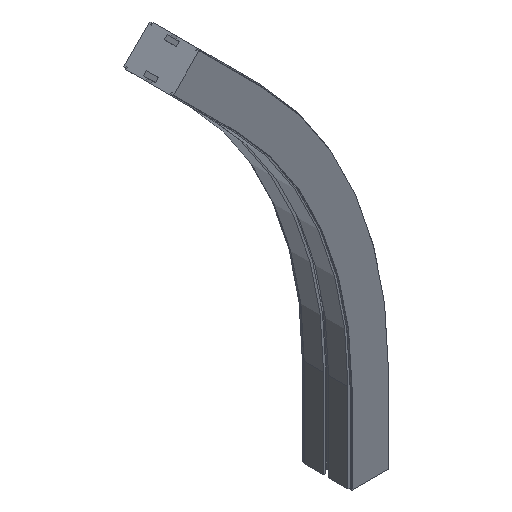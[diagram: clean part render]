
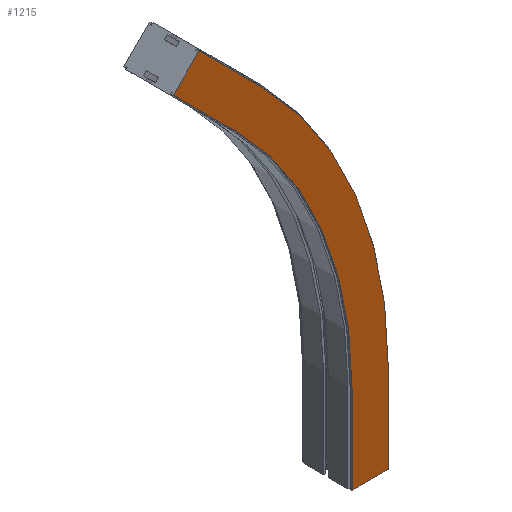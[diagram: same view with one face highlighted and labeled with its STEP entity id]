
A CAD part, isometric view. The second image highlights one B-rep face of the part: STEP entity #1215.
In plain terms, the highlighted planar face has unit normal (0, -1, 0).
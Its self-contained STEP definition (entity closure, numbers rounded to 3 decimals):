
#20 = CARTESIAN_POINT ( 'NONE',  ( -30.65, -42., 150. ) ) ;
#153 = ORIENTED_EDGE ( 'NONE', *, *, #799, .F. ) ;
#160 = VERTEX_POINT ( 'NONE', #2393 ) ;
#212 = VECTOR ( 'NONE', #984, 1000. ) ;
#241 = DIRECTION ( 'NONE',  ( 0., -1., 0. ) ) ;
#316 = CARTESIAN_POINT ( 'NONE',  ( -332.764, -42., 729.368 ) ) ;
#333 = DIRECTION ( 'NONE',  ( 0., -1., 0. ) ) ;
#362 = CIRCLE ( 'NONE', #2644, 730.65 ) ;
#386 = VERTEX_POINT ( 'NONE', #1276 ) ;
#423 = CARTESIAN_POINT ( 'NONE',  ( 30.65, -42., 150. ) ) ;
#439 = VECTOR ( 'NONE', #2535, 1000. ) ;
#483 = EDGE_CURVE ( 'NONE', #2159, #386, #2262, .T. ) ;
#536 = EDGE_CURVE ( 'NONE', #1718, #1055, #663, .T. ) ;
#545 = LINE ( 'NONE', #423, #852 ) ;
#663 = LINE ( 'NONE', #1369, #1350 ) ;
#754 = CARTESIAN_POINT ( 'NONE',  ( -30.65, -42., 0. ) ) ;
#799 = EDGE_CURVE ( 'NONE', #160, #1055, #2801, .T. ) ;
#852 = VECTOR ( 'NONE', #2133, 1000. ) ;
#860 = EDGE_LOOP ( 'NONE', ( #153, #1053, #1631, #1885, #2646, #873, #1938, #1363 ) ) ;
#873 = ORIENTED_EDGE ( 'NONE', *, *, #483, .F. ) ;
#946 = EDGE_CURVE ( 'NONE', #1718, #2159, #2945, .T. ) ;
#984 = DIRECTION ( 'NONE',  ( -1., 0., 0. ) ) ;
#991 = AXIS2_PLACEMENT_3D ( 'NONE', #1032, #2281, #2516 ) ;
#1012 = VERTEX_POINT ( 'NONE', #2292 ) ;
#1032 = CARTESIAN_POINT ( 'NONE',  ( -700., -42., 150. ) ) ;
#1053 = ORIENTED_EDGE ( 'NONE', *, *, #1693, .F. ) ;
#1055 = VERTEX_POINT ( 'NONE', #1663 ) ;
#1215 = ADVANCED_FACE ( 'NONE', ( #2040 ), #2450, .T. ) ;
#1224 = DIRECTION ( 'NONE',  ( 1., 0., 0. ) ) ;
#1263 = CARTESIAN_POINT ( 'NONE',  ( -700., -42., 150. ) ) ;
#1276 = CARTESIAN_POINT ( 'NONE',  ( -332.764, -42., 729.368 ) ) ;
#1297 = CARTESIAN_POINT ( 'NONE',  ( -183.352, -42., 666.648 ) ) ;
#1325 = CARTESIAN_POINT ( 'NONE',  ( -226.698, -42., 623.302 ) ) ;
#1350 = VECTOR ( 'NONE', #2851, 1000. ) ;
#1363 = ORIENTED_EDGE ( 'NONE', *, *, #536, .T. ) ;
#1369 = CARTESIAN_POINT ( 'NONE',  ( -30.65, -42., 150. ) ) ;
#1399 = VERTEX_POINT ( 'NONE', #1503 ) ;
#1503 = CARTESIAN_POINT ( 'NONE',  ( -183.352, -42., 666.648 ) ) ;
#1565 = DIRECTION ( 'NONE',  ( -0.707, 0., 0.707 ) ) ;
#1592 = AXIS2_PLACEMENT_3D ( 'NONE', #20, #241, #1224 ) ;
#1631 = ORIENTED_EDGE ( 'NONE', *, *, #2410, .T. ) ;
#1663 = CARTESIAN_POINT ( 'NONE',  ( -30.65, -42., 0. ) ) ;
#1693 = EDGE_CURVE ( 'NONE', #1965, #160, #545, .T. ) ;
#1718 = VERTEX_POINT ( 'NONE', #1740 ) ;
#1740 = CARTESIAN_POINT ( 'NONE',  ( -30.65, -42., 150. ) ) ;
#1751 = VECTOR ( 'NONE', #2455, 1000. ) ;
#1831 = LINE ( 'NONE', #1297, #439 ) ;
#1885 = ORIENTED_EDGE ( 'NONE', *, *, #2352, .T. ) ;
#1916 = CARTESIAN_POINT ( 'NONE',  ( -226.698, -42., 623.302 ) ) ;
#1938 = ORIENTED_EDGE ( 'NONE', *, *, #946, .F. ) ;
#1965 = VERTEX_POINT ( 'NONE', #2031 ) ;
#2031 = CARTESIAN_POINT ( 'NONE',  ( 30.65, -42., 150. ) ) ;
#2040 = FACE_OUTER_BOUND ( 'NONE', #860, .T. ) ;
#2133 = DIRECTION ( 'NONE',  ( 0., 0., -1. ) ) ;
#2159 = VERTEX_POINT ( 'NONE', #1916 ) ;
#2262 = LINE ( 'NONE', #1325, #2909 ) ;
#2276 = DIRECTION ( 'NONE',  ( 0., 0., -1. ) ) ;
#2281 = DIRECTION ( 'NONE',  ( 0., -1., 0. ) ) ;
#2292 = CARTESIAN_POINT ( 'NONE',  ( -289.418, -42., 772.714 ) ) ;
#2352 = EDGE_CURVE ( 'Edge42', #1399, #1012, #1831, .T. ) ;
#2393 = CARTESIAN_POINT ( 'NONE',  ( 30.65, -42., 0. ) ) ;
#2410 = EDGE_CURVE ( 'Edge18', #1965, #1399, #362, .T. ) ;
#2450 = PLANE ( 'NONE',  #1592 ) ;
#2455 = DIRECTION ( 'NONE',  ( -0.707, 0., -0.707 ) ) ;
#2516 = DIRECTION ( 'NONE',  ( 0., 0., -1. ) ) ;
#2535 = DIRECTION ( 'NONE',  ( -0.707, 0., 0.707 ) ) ;
#2590 = LINE ( 'NONE', #316, #1751 ) ;
#2644 = AXIS2_PLACEMENT_3D ( 'NONE', #1263, #333, #2276 ) ;
#2646 = ORIENTED_EDGE ( 'NONE', *, *, #2882, .T. ) ;
#2801 = LINE ( 'NONE', #754, #212 ) ;
#2851 = DIRECTION ( 'NONE',  ( 0., 0., -1. ) ) ;
#2882 = EDGE_CURVE ( 'NONE', #1012, #386, #2590, .T. ) ;
#2909 = VECTOR ( 'NONE', #1565, 1000. ) ;
#2945 = CIRCLE ( 'NONE', #991, 669.35 ) ;
